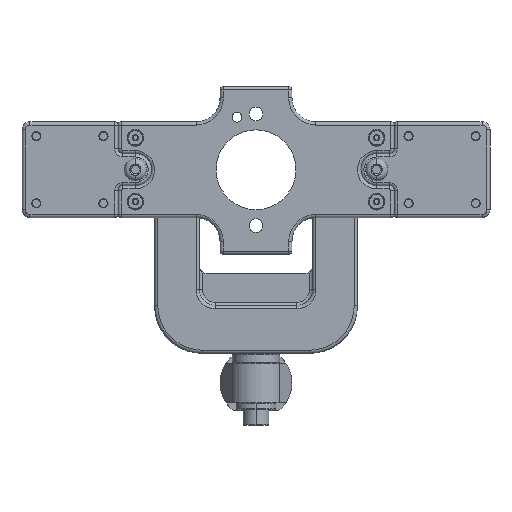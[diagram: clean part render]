
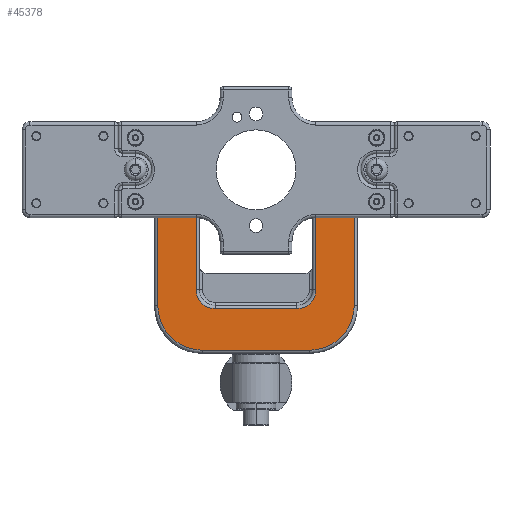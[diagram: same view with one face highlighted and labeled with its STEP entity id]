
A CAD part, front view. The second image highlights one B-rep face of the part: STEP entity #45378.
In plain terms, the highlighted planar face has unit normal (0, -1, 0).
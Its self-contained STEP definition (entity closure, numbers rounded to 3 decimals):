
#928=DIRECTION('',(1.,0.,0.));
#929=VECTOR('',#928,24.);
#930=CARTESIAN_POINT('',(37.5,-25.,-18.));
#931=LINE('',#930,#929);
#936=CARTESIAN_POINT('',(33.5,-25.,-113.5));
#937=DIRECTION('',(0.,-1.,0.));
#938=DIRECTION('',(0.,0.,-1.));
#939=AXIS2_PLACEMENT_3D('',#936,#937,#938);
#941=CARTESIAN_POINT('',(-33.5,-25.,-113.5));
#942=DIRECTION('',(0.,-1.,0.));
#943=DIRECTION('',(-1.,0.,0.));
#944=AXIS2_PLACEMENT_3D('',#941,#942,#943);
#946=CARTESIAN_POINT('',(-25.5,-25.,-103.5));
#947=DIRECTION('',(0.,1.,0.));
#948=DIRECTION('',(0.,0.,-1.));
#949=AXIS2_PLACEMENT_3D('',#946,#947,#948);
#951=CARTESIAN_POINT('',(25.5,-25.,-103.5));
#952=DIRECTION('',(0.,1.,0.));
#953=DIRECTION('',(1.,0.,0.));
#954=AXIS2_PLACEMENT_3D('',#951,#952,#953);
#960=DIRECTION('',(0.,0.,-1.));
#961=VECTOR('',#960,95.5);
#962=CARTESIAN_POINT('',(61.5,-25.,-18.));
#963=LINE('',#962,#961);
#1113=DIRECTION('',(-1.,0.,0.));
#1114=VECTOR('',#1113,67.);
#1115=CARTESIAN_POINT('',(33.5,-25.,-141.5));
#1116=LINE('',#1115,#1114);
#1936=DIRECTION('',(0.,0.,1.));
#1937=VECTOR('',#1936,85.5);
#1938=CARTESIAN_POINT('',(37.5,-25.,-103.5));
#1939=LINE('',#1938,#1937);
#1955=DIRECTION('',(1.,0.,0.));
#1956=VECTOR('',#1955,51.);
#1957=CARTESIAN_POINT('',(-25.5,-25.,-115.5));
#1958=LINE('',#1957,#1956);
#1978=DIRECTION('',(0.,0.,-1.));
#1979=VECTOR('',#1978,85.5);
#1980=CARTESIAN_POINT('',(-37.5,-25.,-18.));
#1981=LINE('',#1980,#1979);
#2006=DIRECTION('',(1.,0.,0.));
#2007=VECTOR('',#2006,24.);
#2008=CARTESIAN_POINT('',(-61.5,-25.,-18.));
#2009=LINE('',#2008,#2007);
#2038=DIRECTION('',(0.,0.,1.));
#2039=VECTOR('',#2038,95.5);
#2040=CARTESIAN_POINT('',(-61.5,-25.,-113.5));
#2041=LINE('',#2040,#2039);
#36937=CARTESIAN_POINT('',(33.5,-25.,-141.5));
#36938=CARTESIAN_POINT('',(-33.5,-25.,-141.5));
#36939=VERTEX_POINT('',#36937);
#36940=VERTEX_POINT('',#36938);
#37009=CARTESIAN_POINT('',(61.5,-25.,-113.5));
#37010=VERTEX_POINT('',#37009);
#37023=CARTESIAN_POINT('',(-61.5,-25.,-113.5));
#37024=VERTEX_POINT('',#37023);
#37041=CARTESIAN_POINT('',(61.5,-25.,-18.));
#37042=VERTEX_POINT('',#37041);
#37055=CARTESIAN_POINT('',(37.5,-25.,-103.5));
#37056=VERTEX_POINT('',#37055);
#37075=CARTESIAN_POINT('',(-37.5,-25.,-18.));
#37076=CARTESIAN_POINT('',(-37.5,-25.,-103.5));
#37077=VERTEX_POINT('',#37075);
#37078=VERTEX_POINT('',#37076);
#37085=CARTESIAN_POINT('',(25.5,-25.,-115.5));
#37086=VERTEX_POINT('',#37085);
#37095=CARTESIAN_POINT('',(-61.5,-25.,-18.));
#37096=VERTEX_POINT('',#37095);
#37113=CARTESIAN_POINT('',(37.5,-25.,-18.));
#37114=VERTEX_POINT('',#37113);
#37115=CARTESIAN_POINT('',(-25.5,-25.,-115.5));
#37116=VERTEX_POINT('',#37115);
#45348=CARTESIAN_POINT('',(33.5,-25.,-113.5));
#45349=DIRECTION('',(0.,1.,0.));
#45350=DIRECTION('',(0.,0.,1.));
#45351=AXIS2_PLACEMENT_3D('',#45348,#45349,#45350);
#45352=PLANE('',#45351);
#45353=ORIENTED_EDGE('',*,*,#45339,.T.);
#45355=ORIENTED_EDGE('',*,*,#45354,.T.);
#45357=ORIENTED_EDGE('',*,*,#45356,.F.);
#45359=ORIENTED_EDGE('',*,*,#45358,.T.);
#45361=ORIENTED_EDGE('',*,*,#45360,.F.);
#45363=ORIENTED_EDGE('',*,*,#45362,.T.);
#45365=ORIENTED_EDGE('',*,*,#45364,.T.);
#45367=ORIENTED_EDGE('',*,*,#45366,.T.);
#45369=ORIENTED_EDGE('',*,*,#45368,.F.);
#45371=ORIENTED_EDGE('',*,*,#45370,.T.);
#45373=ORIENTED_EDGE('',*,*,#45372,.F.);
#45375=ORIENTED_EDGE('',*,*,#45374,.T.);
#45376=EDGE_LOOP('',(#45353,#45355,#45357,#45359,#45361,#45363,#45365,#45367,
#45369,#45371,#45373,#45375));
#45377=FACE_OUTER_BOUND('',#45376,.F.);
#45378=ADVANCED_FACE('',(#45377),#45352,.F.);
#940=CIRCLE('',#939,28.);
#945=CIRCLE('',#944,28.);
#950=CIRCLE('',#949,12.);
#955=CIRCLE('',#954,12.);
#45339=EDGE_CURVE('',#37114,#37042,#931,.T.);
#45354=EDGE_CURVE('',#37042,#37010,#963,.T.);
#45356=EDGE_CURVE('',#36939,#37010,#940,.T.);
#45358=EDGE_CURVE('',#36939,#36940,#1116,.T.);
#45360=EDGE_CURVE('',#37024,#36940,#945,.T.);
#45362=EDGE_CURVE('',#37024,#37096,#2041,.T.);
#45364=EDGE_CURVE('',#37096,#37077,#2009,.T.);
#45366=EDGE_CURVE('',#37077,#37078,#1981,.T.);
#45368=EDGE_CURVE('',#37116,#37078,#950,.T.);
#45370=EDGE_CURVE('',#37116,#37086,#1958,.T.);
#45372=EDGE_CURVE('',#37056,#37086,#955,.T.);
#45374=EDGE_CURVE('',#37056,#37114,#1939,.T.);
